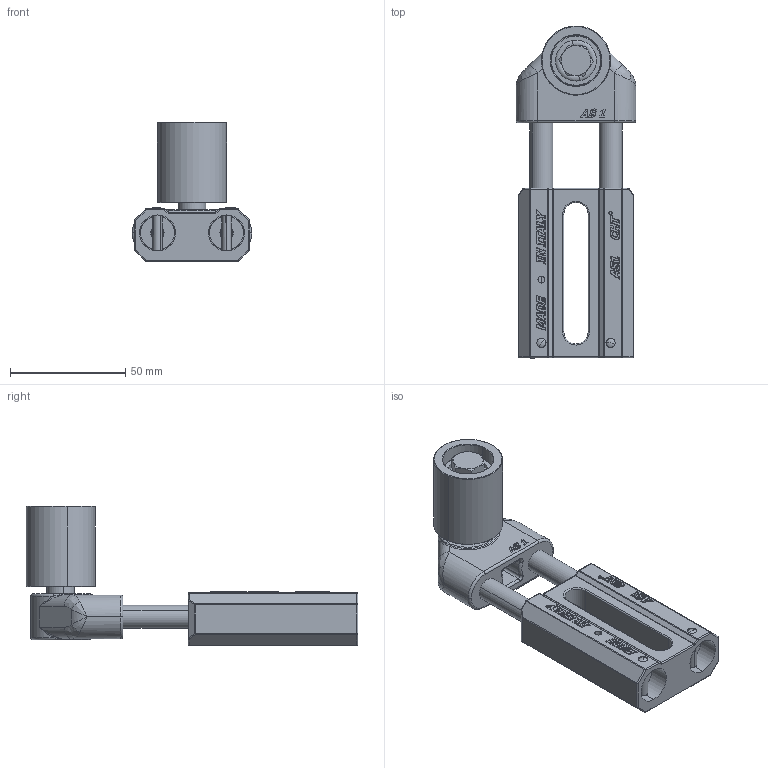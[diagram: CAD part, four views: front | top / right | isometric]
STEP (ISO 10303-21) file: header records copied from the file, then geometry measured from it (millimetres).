
FILE_DESCRIPTION (( 'STEP AP203' ), '1' );
FILE_NAME ('ASRU1 3035 AVP cod. 94021235.STEP', '2017-08-23T07:29:02', ( '' ), ( '' ), 'SwSTEP 2.0', 'SolidWorks 2016', '' );
FILE_SCHEMA (( 'CONFIG_CONTROL_DESIGN' ));
Length unit declared in the file: millimetre
Products named in the file (13): AVP-2973035VS; ASRU1 3035 AVP cod. 94021235; Testa AS1 M8; Boccola 10-12-15; SKF - 608 - 8,SI,NC,8_68_SKF - 608 - 8,SI,NC,8_68; Ron. 5.3X15X1.2; DIST-3035; AS 1-Base; ISO 8745-M4x22-St_ISO 8745-M4x22-St; Colonnetta M10; ISO 4017 - M8 x 50-C_ISO 4017 - M8 x 50-C; AS1 M8 cod. 94021008N; RU 3035 AVP cod. 94040235_montaggio 1
Assembly tree (18 placements, depth 3):
  ASRU1 3035 AVP cod. 94021235
    AS1 M8 cod. 94021008N
      AS 1-Base
      Colonnetta M10  x2
      Boccola 10-12-15  x2
      ISO 8745-M4x22-St_ISO 8745-M4x22-St  x2
      Ron. 5.3X15X1.2  x2
      Testa AS1 M8
    RU 3035 AVP cod. 94040235_montaggio 1
      AVP-2973035VS
      SKF - 608 - 8,SI,NC,8_68_SKF - 608 - 8,SI,NC,8_68  x2
      DIST-3035  x2
      ISO 4017 - M8 x 50-C_ISO 4017 - M8 x 50-C
Bounding box: 52 x 144 x 60.5 mm (x, y, z)
Volume: 95481.5 mm3; surface area: 47828.1 mm2
Topology: 16 solids, 16 shells, 933 faces, 2183 edges, 1271 vertices
Faces by surface type: cylinder 341, plane 298, bspline 130, torus 70, cone 56, sphere 38
Entity records: 30066 total; most frequent: CARTESIAN_POINT 10759, ORIENTED_EDGE 3892, DIRECTION 3390, EDGE_CURVE 1946, AXIS2_PLACEMENT_3D 1178, VERTEX_POINT 1152, VECTOR 1034, LINE 1034
